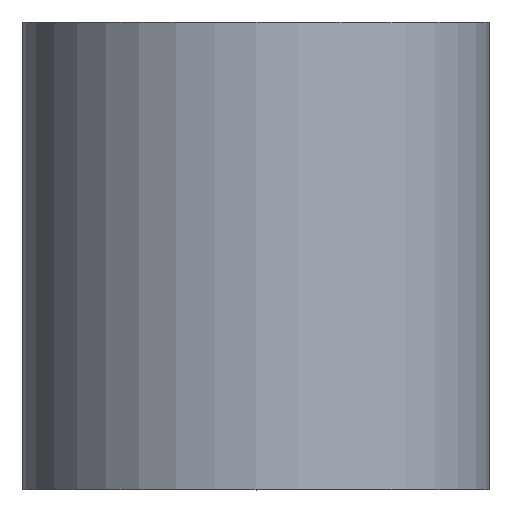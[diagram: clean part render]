
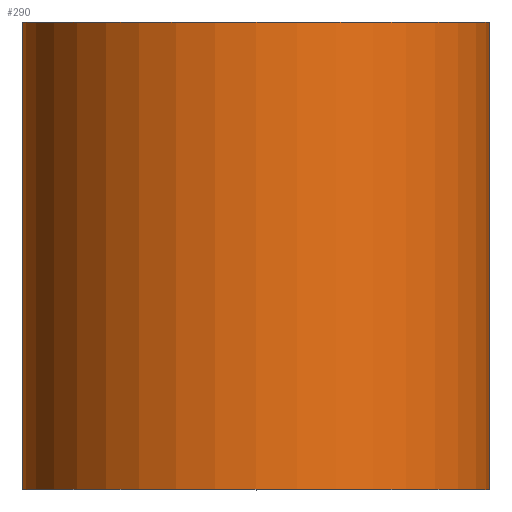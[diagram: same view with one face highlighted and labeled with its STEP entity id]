
A CAD part, top view. The second image highlights one B-rep face of the part: STEP entity #290.
In plain terms, the highlighted cylindrical face has radius 5 mm (diameter 10 mm), a partial arc.
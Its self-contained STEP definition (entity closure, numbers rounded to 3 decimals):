
#16 = CIRCLE ( 'NONE', #108, 5. ) ;
#29 = DIRECTION ( 'NONE',  ( 0., 1., 0. ) ) ;
#33 = VERTEX_POINT ( 'NONE', #212 ) ;
#35 = CYLINDRICAL_SURFACE ( 'NONE', #230, 5. ) ;
#43 = ORIENTED_EDGE ( 'NONE', *, *, #244, .T. ) ;
#54 = CARTESIAN_POINT ( 'NONE',  ( -5., 0., 0. ) ) ;
#58 = ORIENTED_EDGE ( 'NONE', *, *, #273, .F. ) ;
#69 = DIRECTION ( 'NONE',  ( 0., 1., 0. ) ) ;
#75 = CARTESIAN_POINT ( 'NONE',  ( -5., 10., 0. ) ) ;
#89 = FACE_OUTER_BOUND ( 'NONE', #216, .T. ) ;
#101 = CARTESIAN_POINT ( 'NONE',  ( 5., 0., 0. ) ) ;
#108 = AXIS2_PLACEMENT_3D ( 'NONE', #169, #29, #222 ) ;
#122 = DIRECTION ( 'NONE',  ( 0., 1., 0. ) ) ;
#132 = AXIS2_PLACEMENT_3D ( 'NONE', #139, #189, #160 ) ;
#139 = CARTESIAN_POINT ( 'NONE',  ( 0., 10., 0. ) ) ;
#154 = VECTOR ( 'NONE', #122, 1000. ) ;
#159 = EDGE_CURVE ( 'NONE', #268, #289, #263, .T. ) ;
#160 = DIRECTION ( 'NONE',  ( -1., 0., 0. ) ) ;
#169 = CARTESIAN_POINT ( 'NONE',  ( 0., 0., 0. ) ) ;
#174 = EDGE_CURVE ( 'NONE', #33, #289, #267, .T. ) ;
#180 = ORIENTED_EDGE ( 'NONE', *, *, #159, .F. ) ;
#187 = VECTOR ( 'NONE', #237, 1000. ) ;
#189 = DIRECTION ( 'NONE',  ( 0., 1., 0. ) ) ;
#212 = CARTESIAN_POINT ( 'NONE',  ( 5., 0., 0. ) ) ;
#216 = EDGE_LOOP ( 'NONE', ( #43, #246, #180, #58 ) ) ;
#217 = CARTESIAN_POINT ( 'NONE',  ( 0., 0., 0. ) ) ;
#222 = DIRECTION ( 'NONE',  ( -1., 0., 0. ) ) ;
#230 = AXIS2_PLACEMENT_3D ( 'NONE', #217, #69, #257 ) ;
#233 = CARTESIAN_POINT ( 'NONE',  ( 5., 10., 0. ) ) ;
#237 = DIRECTION ( 'NONE',  ( 0., 1., 0. ) ) ;
#244 = EDGE_CURVE ( 'NONE', #279, #33, #16, .T. ) ;
#246 = ORIENTED_EDGE ( 'NONE', *, *, #174, .T. ) ;
#248 = LINE ( 'NONE', #299, #154 ) ;
#257 = DIRECTION ( 'NONE',  ( -1., 0., 0. ) ) ;
#263 = CIRCLE ( 'NONE', #132, 5. ) ;
#267 = LINE ( 'NONE', #101, #187 ) ;
#268 = VERTEX_POINT ( 'NONE', #75 ) ;
#273 = EDGE_CURVE ( 'NONE', #279, #268, #248, .T. ) ;
#279 = VERTEX_POINT ( 'NONE', #54 ) ;
#289 = VERTEX_POINT ( 'NONE', #233 ) ;
#290 = ADVANCED_FACE ( 'NONE', ( #89 ), #35, .T. ) ;
#299 = CARTESIAN_POINT ( 'NONE',  ( -5., 0., 0. ) ) ;
